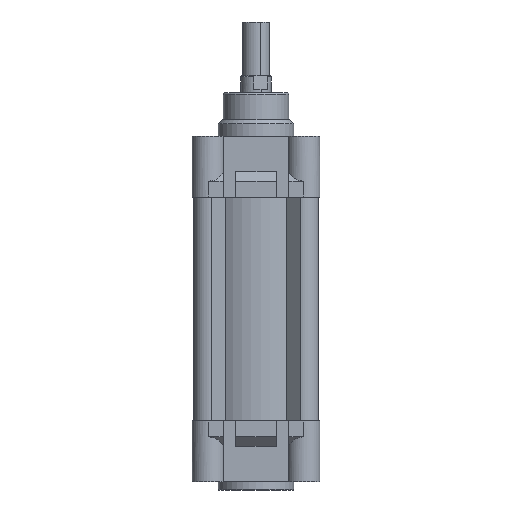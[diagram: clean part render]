
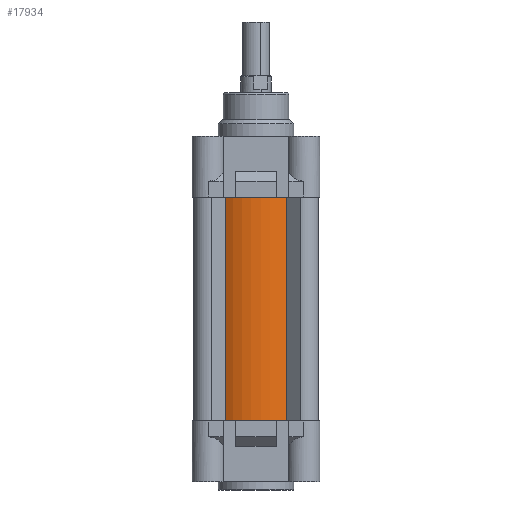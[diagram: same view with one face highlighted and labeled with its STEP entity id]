
A CAD part, front view. The second image highlights one B-rep face of the part: STEP entity #17934.
In plain terms, the highlighted cylindrical face has radius 34 mm (diameter 68 mm), a partial arc.
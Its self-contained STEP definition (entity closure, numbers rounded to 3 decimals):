
#111 = VERTEX_POINT ( 'NONE', #9904 ) ;
#519 = ORIENTED_EDGE ( 'NONE', *, *, #8527, .T. ) ;
#1425 = CARTESIAN_POINT ( 'NONE',  ( 55.319, 8.357, 0. ) ) ;
#1491 = ORIENTED_EDGE ( 'NONE', *, *, #7010, .T. ) ;
#1591 = CARTESIAN_POINT ( 'NONE',  ( 18.681, 8.357, 133. ) ) ;
#1802 = DIRECTION ( 'NONE',  ( 0., 0., -1. ) ) ;
#2119 = AXIS2_PLACEMENT_3D ( 'NONE', #14156, #15744, #7351 ) ;
#4949 = CIRCLE ( 'NONE', #6921, 34. ) ;
#5150 = CYLINDRICAL_SURFACE ( 'NONE', #18027, 34. ) ;
#5214 = EDGE_CURVE ( 'NONE', #16792, #111, #9221, .T. ) ;
#5741 = EDGE_CURVE ( 'NONE', #111, #11090, #10289, .T. ) ;
#6921 = AXIS2_PLACEMENT_3D ( 'NONE', #8486, #13592, #18623 ) ;
#7010 = EDGE_CURVE ( 'NONE', #16792, #14710, #9408, .T. ) ;
#7351 = DIRECTION ( 'NONE',  ( 1., 0., 0. ) ) ;
#8045 = ORIENTED_EDGE ( 'NONE', *, *, #5741, .F. ) ;
#8486 = CARTESIAN_POINT ( 'NONE',  ( 37., 37., 0. ) ) ;
#8527 = EDGE_CURVE ( 'NONE', #14710, #11090, #4949, .T. ) ;
#9221 = CIRCLE ( 'NONE', #2119, 34. ) ;
#9408 = LINE ( 'NONE', #1591, #19407 ) ;
#9632 = FACE_OUTER_BOUND ( 'NONE', #11487, .T. ) ;
#9904 = CARTESIAN_POINT ( 'NONE',  ( 55.319, 8.357, 133. ) ) ;
#10289 = LINE ( 'NONE', #16500, #17610 ) ;
#10319 = CARTESIAN_POINT ( 'NONE',  ( 37., 37., 133. ) ) ;
#10392 = DIRECTION ( 'NONE',  ( 0., 0., -1. ) ) ;
#11090 = VERTEX_POINT ( 'NONE', #1425 ) ;
#11154 = CARTESIAN_POINT ( 'NONE',  ( 18.681, 8.357, 133. ) ) ;
#11487 = EDGE_LOOP ( 'NONE', ( #519, #8045, #14313, #1491 ) ) ;
#13592 = DIRECTION ( 'NONE',  ( 0., 0., 1. ) ) ;
#14156 = CARTESIAN_POINT ( 'NONE',  ( 37., 37., 133. ) ) ;
#14313 = ORIENTED_EDGE ( 'NONE', *, *, #5214, .F. ) ;
#14710 = VERTEX_POINT ( 'NONE', #14816 ) ;
#14816 = CARTESIAN_POINT ( 'NONE',  ( 18.681, 8.357, 0. ) ) ;
#15744 = DIRECTION ( 'NONE',  ( 0., 0., 1. ) ) ;
#16500 = CARTESIAN_POINT ( 'NONE',  ( 55.319, 8.357, 133. ) ) ;
#16709 = DIRECTION ( 'NONE',  ( 0., 0., -1. ) ) ;
#16792 = VERTEX_POINT ( 'NONE', #11154 ) ;
#17610 = VECTOR ( 'NONE', #16709, 1000. ) ;
#17934 = ADVANCED_FACE ( 'NONE', ( #9632 ), #5150, .T. ) ;
#18027 = AXIS2_PLACEMENT_3D ( 'NONE', #10319, #10392, #20586 ) ;
#18623 = DIRECTION ( 'NONE',  ( 1., 0., 0. ) ) ;
#19407 = VECTOR ( 'NONE', #1802, 1000. ) ;
#20586 = DIRECTION ( 'NONE',  ( -1., 0., 0. ) ) ;
